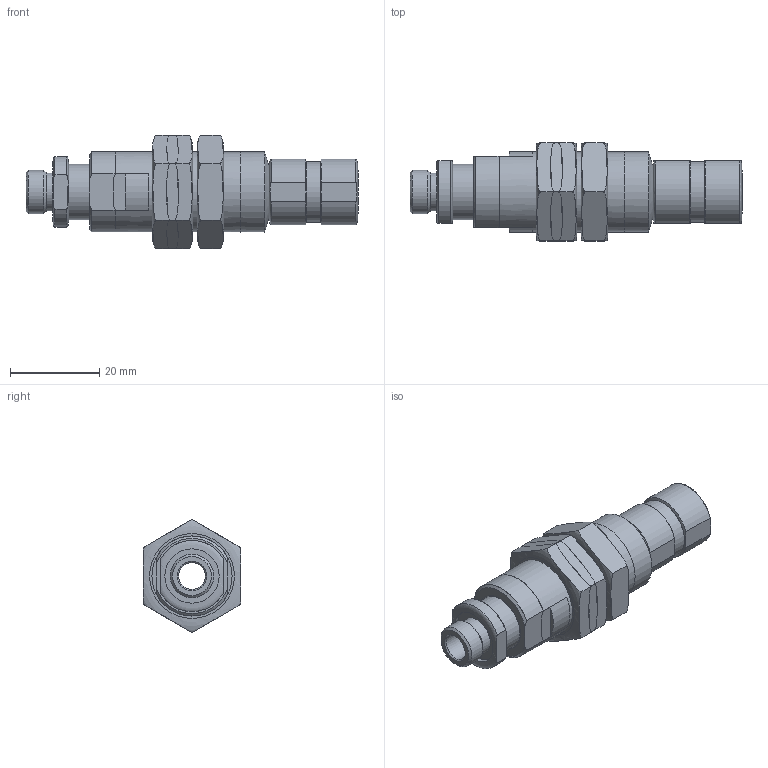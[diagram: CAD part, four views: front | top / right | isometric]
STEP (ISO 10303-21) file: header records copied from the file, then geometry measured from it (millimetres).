
FILE_DESCRIPTION( ( 'Unknown' ), '1' );
FILE_NAME( 'C:/Documents and Settings/Owner/官帕 拳搁/LEVEL SPRING HOMEPAGE/L1810TSE/L1810TSE.stp', 'Unknown', ( 'Unknown' ), ( 'Unknown' ), 'PSStep 10.0', 'Unknown', ' ' );
FILE_SCHEMA( ( 'AUTOMOTIVE_DESIGN { 1 0 10303 214 1 1 1 1 }' ) );
Length unit declared in the file: millimetre
Products named in the file (5): Assem1; sha; HOU; upper; NUT(M18XP1)
Bounding box: 74.6 x 22 x 25.4 mm (x, y, z)
Surface area: 21426.4 mm2 (no closed solid volume)
Topology: 0 solids, 155 shells, 155 faces, 591 edges, 518 vertices
Faces by surface type: plane 66, cylinder 43, cone 22, revolution 14, torus 10
Full cylindrical faces by diameter (mm): 6 x2, 7 x2, 8.5 x2, 8.8 x2, 9.8 x6, 10 x4, 12.2 x2, 12.5 x4, 13.5 x2, 18 x5
Entity records: 4496 total; most frequent: CARTESIAN_POINT 1830, DIRECTION 446, ORIENTED_EDGE 230, EDGE_CURVE 230, VERTEX_POINT 230, AXIS2_PLACEMENT_3D 194, CIRCLE 122, FACE_BOUND 120
